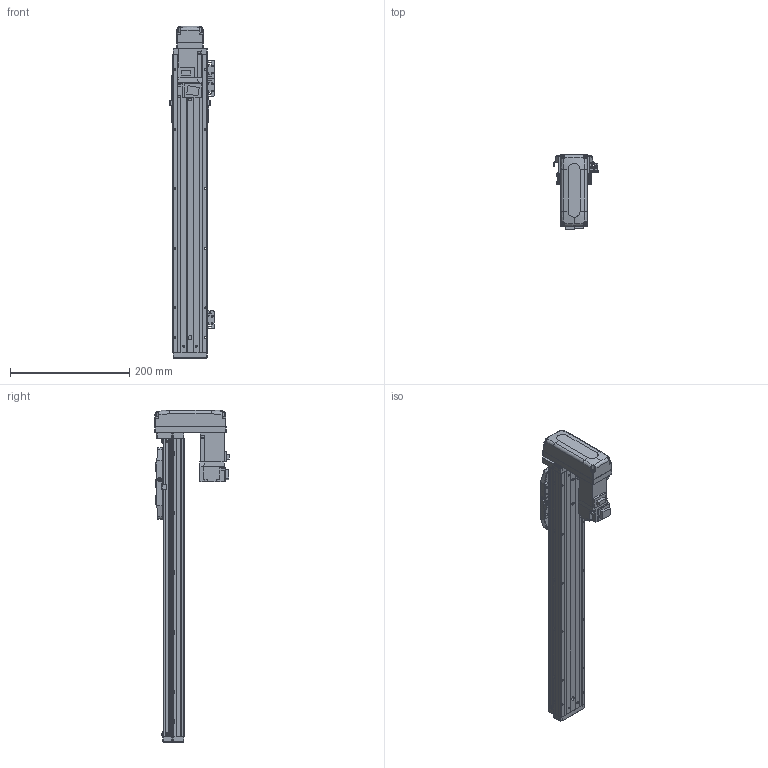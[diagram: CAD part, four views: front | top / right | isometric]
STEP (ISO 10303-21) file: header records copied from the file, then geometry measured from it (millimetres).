
FILE_DESCRIPTION (( 'STEP AP203' ), '1' );
FILE_NAME ('CTHA50-350-BM-M10-C4L.step', '2022-03-19T06:03:18', ( '微软用户' ), ( '微软中国' ), 'SwSTEP 2.0', 'SolidWorks 2020', '' );
FILE_SCHEMA (( 'CONFIG_CONTROL_DESIGN' ));
Length unit declared in the file: millimetre
Products named in the file (20): GBT 70.1-M4×12; GBT 70.3-M3℅6; KTHA50-005; CTHA60-016; CTHA50-015-2_CTHA60-015-2; GB¨uT 70.2-M3¡Á6_M3¡Á6; CTHA60-021; CTHA60-033; EE_SX911P_R; HG-KR13（三菱）; GBT 70.1-M3×15; GBT77-2000 M3×3; CTHA50-002; CTHA50-350-BM-M10-C4L; GBT 70.1-M3℅6; CTHA50-030; KTHA50-001_500; CTHA60-017; CTHA50-031; KTHA50-004
Assembly tree (60 placements, depth 2):
  CTHA50-350-BM-M10-C4L
    KTHA50-001_500
    KTHA50-004
    KTHA50-005
    GB¨uT 70.2-M3¡Á6_M3¡Á6  x10
    EE_SX911P_R  x3
    GBT77-2000 M3×3  x6
    GBT 70.1-M3℅6  x6
    CTHA60-017  x3
    GBT 70.1-M4×12  x10
    CTHA60-016  x2
    CTHA60-021  x2
    HG-KR13（三菱）
    CTHA50-002
    CTHA50-030  x2
    CTHA50-031
    GBT 70.3-M3℅6  x4
    CTHA50-015-2_CTHA60-015-2
    CTHA60-033
    GBT 70.1-M3×15  x4
Bounding box: 74.12 x 125.3 x 557 mm (x, y, z)
Volume: 1164165.9 mm3; surface area: 301003 mm2
Topology: 62 solids, 62 shells, 2513 faces, 5967 edges, 3654 vertices
Faces by surface type: plane 1422, cylinder 582, cone 351, torus 108, bspline 26, sphere 24
Entity records: 42685 total; most frequent: CARTESIAN_POINT 7883, DIRECTION 6645, ORIENTED_EDGE 6442, EDGE_CURVE 3221, VECTOR 2253, LINE 2253, AXIS2_PLACEMENT_3D 2196, VERTEX_POINT 2028
